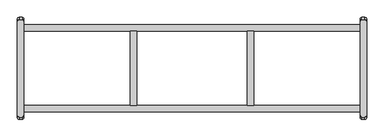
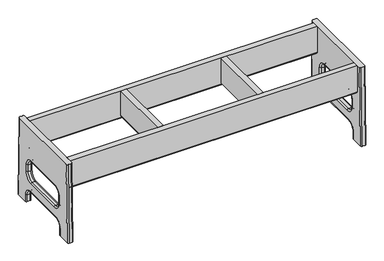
"""IFC4 building model written with IfcOpenShell, lengths in millimetres: furniture geometry, SSL-Childcraft_Outdoor-Bench : 2161361."""

from ifc_helpers import new_model, si_unit, point, frame, frame_2d, origin, place, context, project, spatial, polyline, circle_curve, ellipse_curve, trimmed, segment, composite_curve, outline, extrude, source, transform, mapped, element, save
from ifc_brep_helpers import plane_surface, cylinder_surface, revolved_surface, extruded_surface, advanced_brep


def furniture_0e07e83f(model_context):
    return source(origin(), model_context, "Body", "SolidModel", [
        advanced_brep(
        [(12.7652904, -293.6836882, 285.75), (17.5277904, -298.4461882, 285.75), (27.0527904, -298.4461882, 285.75), (31.8152904, -293.6836882, 285.75), (31.8152904, -11.1163118, 285.75), (27.0527904, -6.3538118, 285.75), (17.5277904, -6.3538118, 285.75), (12.7652904, -11.1163118, 285.75), (12.7652904, -300.0375, 0.0), (12.7652904, -4.7625, 0.0), (12.7652904, -46.8179199, 0.0), (12.7652904, -46.8179199, 25.4), (12.7652904, -76.1866699, 54.76875), (12.7652904, -228.6006417, 54.76875), (12.7652904, -257.9820917, 25.3873), (12.7652904, -257.9820917, 0.0), (12.7652904, -222.25, 169.0686466), (12.7652904, -251.61875, 139.6998966), (12.7652904, -251.61875, 114.2998966), (12.7652904, -222.25, 84.9311466), (12.7652904, -82.55, 84.9311466), (12.7652904, -53.18125, 114.2998966), (12.7652904, -53.18125, 139.6998966), (12.7652904, -82.55, 169.0686466), (17.5277904, -304.8, 0.0), (27.0527904, -304.8, 0.0), (31.8152904, -300.0375, 0.0), (27.0527904, -246.85625, 139.6998966), (27.0527904, -222.25, 164.3061466), (31.8152904, -222.25, 169.0686466), (31.8152904, -251.61875, 139.6998966), (17.5277904, -246.85625, 139.6998966), (17.5277904, -222.25, 164.3061466), (31.8152904, -251.61875, 114.2998966), (27.0527904, -246.85625, 114.2998966), (17.5277904, -246.85625, 114.2998966), (31.8152904, -222.25, 84.9311466), (27.0527904, -222.25, 89.6936466), (17.5277904, -222.25, 89.6936466), (31.8152904, -82.55, 84.9311466), (27.0527904, -82.55, 89.6936466), (17.5277904, -82.55, 89.6936466), (31.8152904, -53.18125, 114.2998966), (27.0527904, -57.94375, 114.2998966), (17.5277904, -57.94375, 114.2998966), (31.8152904, -53.18125, 139.6998966), (27.0527904, -57.94375, 139.6998966), (17.5277904, -57.94375, 139.6998966), (31.8152904, -82.55, 169.0686466), (27.0527904, -82.55, 164.3061466), (17.5277904, -82.55, 164.3061466), (27.0527904, -51.5804199, 0.0), (31.8152904, -46.8179199, 0.0), (31.8152904, -46.8179199, 25.4), (27.0527904, -51.5804199, 25.4), (17.5277904, -51.5804199, 0.0), (17.5277904, -51.5804199, 25.4), (31.8152904, -76.1866699, 54.76875), (27.0527904, -76.1866699, 50.00625), (17.5277904, -76.1866699, 50.00625), (31.8152904, -228.6006417, 54.76875), (27.0527904, -228.6006417, 50.00625), (17.5277904, -228.6006417, 50.00625), (31.8152904, -257.9820917, 25.3873), (27.0527904, -253.2195917, 25.3873), (17.5277904, -253.2195917, 25.3873), (31.8152904, -257.9820917, 0.0), (27.0527904, -253.2195917, 0.0), (17.5277904, -253.2195917, 0.0), (17.5277904, 0.0, 0.0), (27.0527904, 0.0, 0.0), (31.8152904, -4.7625, 0.0)],
        [
            (0, 1, circle_curve(frame((17.5277904, -293.6836882, 285.75), z_axis=(0.0, 0.0, 1.0), x_axis=(1.0, 0.0, 0.0)), 4.7625)),
            (1, 2),
            (2, 3, circle_curve(frame((27.0527904, -293.6836882, 285.75), z_axis=(0.0, 0.0, 1.0), x_axis=(1.0, 0.0, 0.0)), 4.7625)),
            (3, 4),
            (4, 5, circle_curve(frame((27.0527904, -11.1163118, 285.75), z_axis=(0.0, 0.0, 1.0), x_axis=(1.0, 0.0, 0.0)), 4.7625)),
            (5, 6),
            (6, 7, circle_curve(frame((17.5277904, -11.1163118, 285.75), z_axis=(0.0, 0.0, 1.0), x_axis=(1.0, 0.0, 0.0)), 4.7625)),
            (7, 0),
            (8, 0),
            (7, 9),
            (9, 10),
            (10, 11),
            (11, 12, circle_curve(frame((12.7652904, -76.1866699, 25.4), z_axis=(1.0, 0.0, 0.0), x_axis=(0.0, 1.0, 0.0)), 29.36875)),
            (12, 13),
            (13, 14, circle_curve(frame((12.7652904, -228.6006417, 25.3873), z_axis=(1.0, 0.0, 0.0), x_axis=(0.0, 0.0, 1.0)), 29.38145)),
            (14, 15),
            (15, 8),
            (16, 17, circle_curve(frame((12.7652904, -222.25, 139.6998966), z_axis=(1.0, 0.0, 0.0), x_axis=(0.0, 0.0, 1.0)), 29.36875)),
            (17, 18),
            (18, 19, circle_curve(frame((12.7652904, -222.25, 114.2998966), z_axis=(1.0, 0.0, 0.0), x_axis=(0.0, -1.0, 0.0)), 29.36875)),
            (19, 20),
            (20, 21, circle_curve(frame((12.7652904, -82.55, 114.2998966), z_axis=(1.0, 0.0, 0.0), x_axis=(0.0, 0.0, -1.0)), 29.36875)),
            (21, 22),
            (22, 23, circle_curve(frame((12.7652904, -82.55, 139.6998966), z_axis=(1.0, 0.0, 0.0), x_axis=(0.0, 1.0, 0.0)), 29.36875)),
            (23, 16),
            (8, 24, circle_curve(frame((17.5277904, -300.0375, 0.0), z_axis=(0.0, 0.0, 1.0), x_axis=(1.0, 0.0, 0.0)), 4.7625)),
            (24, 1),
            (24, 25),
            (25, 2),
            (25, 26, circle_curve(frame((27.0527904, -300.0375, 0.0), z_axis=(0.0, 0.0, 1.0), x_axis=(1.0, 0.0, 0.0)), 4.7625)),
            (26, 3),
            (27, 28, circle_curve(frame((27.0527904, -222.25, 139.6998966), z_axis=(-1.0, 0.0, 0.0), x_axis=(0.0, 0.0, 1.0)), 24.60625)),
            (28, 29, circle_curve(frame((27.0527904, -222.25, 169.0686466), z_axis=(0.0, -1.0, 0.0), x_axis=(0.0, 0.0, -1.0)), 4.7625)),
            (29, 30, circle_curve(frame((31.8152904, -222.25, 139.6998966), z_axis=(1.0, 0.0, 0.0), x_axis=(0.0, 0.0, 1.0)), 29.36875)),
            (30, 27, circle_curve(frame((27.0527904, -251.61875, 139.6998966), z_axis=(0.0, 0.0, 1.0), x_axis=(0.0, 1.0, 0.0)), 4.7625)),
            (27, 31),
            (31, 32, circle_curve(frame((17.5277904, -222.25, 139.6998966), z_axis=(-1.0, 0.0, 0.0), x_axis=(0.0, 0.0, 1.0)), 24.60625)),
            (32, 28),
            (31, 17, circle_curve(frame((17.5277904, -251.61875, 139.6998966), z_axis=(0.0, 0.0, 1.0), x_axis=(0.0, 1.0, 0.0)), 4.7625)),
            (16, 32, circle_curve(frame((17.5277904, -222.25, 169.0686466), z_axis=(0.0, -1.0, 0.0), x_axis=(0.0, 0.0, -1.0)), 4.7625)),
            (30, 33),
            (33, 34, circle_curve(frame((27.0527904, -251.61875, 114.2998966), z_axis=(0.0, 0.0, 1.0), x_axis=(0.0, 1.0, 0.0)), 4.7625)),
            (34, 27),
            (34, 35),
            (35, 31),
            (35, 18, circle_curve(frame((17.5277904, -251.61875, 114.2998966), z_axis=(0.0, 0.0, 1.0), x_axis=(0.0, 1.0, 0.0)), 4.7625)),
            (33, 36, circle_curve(frame((31.8152904, -222.25, 114.2998966), z_axis=(1.0, 0.0, 0.0), x_axis=(0.0, -1.0, 0.0)), 29.36875)),
            (36, 37, circle_curve(frame((27.0527904, -222.25, 84.9311466), z_axis=(0.0, -1.0, 0.0), x_axis=(0.0, 0.0, 1.0)), 4.7625)),
            (37, 34, circle_curve(frame((27.0527904, -222.25, 114.2998966), z_axis=(-1.0, 0.0, 0.0), x_axis=(0.0, -1.0, 0.0)), 24.60625)),
            (37, 38),
            (38, 35, circle_curve(frame((17.5277904, -222.25, 114.2998966), z_axis=(-1.0, 0.0, 0.0), x_axis=(0.0, -1.0, 0.0)), 24.60625)),
            (38, 19, circle_curve(frame((17.5277904, -222.25, 84.9311466), z_axis=(0.0, -1.0, 0.0), x_axis=(0.0, 0.0, 1.0)), 4.7625)),
            (36, 39),
            (39, 40, circle_curve(frame((27.0527904, -82.55, 84.9311466), z_axis=(0.0, -1.0, 0.0), x_axis=(0.0, 0.0, 1.0)), 4.7625)),
            (40, 37),
            (40, 41),
            (41, 38),
            (41, 20, circle_curve(frame((17.5277904, -82.55, 84.9311466), z_axis=(0.0, -1.0, 0.0), x_axis=(0.0, 0.0, 1.0)), 4.7625)),
            (39, 42, circle_curve(frame((31.8152904, -82.55, 114.2998966), z_axis=(1.0, 0.0, 0.0), x_axis=(0.0, 0.0, -1.0)), 29.36875)),
            (42, 43, circle_curve(frame((27.0527904, -53.18125, 114.2998966), z_axis=(0.0, 0.0, -1.0), x_axis=(0.0, -1.0, 0.0)), 4.7625)),
            (43, 40, circle_curve(frame((27.0527904, -82.55, 114.2998966), z_axis=(-1.0, 0.0, 0.0), x_axis=(0.0, 0.0, -1.0)), 24.60625)),
            (43, 44),
            (44, 41, circle_curve(frame((17.5277904, -82.55, 114.2998966), z_axis=(-1.0, 0.0, 0.0), x_axis=(0.0, 0.0, -1.0)), 24.60625)),
            (44, 21, circle_curve(frame((17.5277904, -53.18125, 114.2998966), z_axis=(0.0, 0.0, -1.0), x_axis=(0.0, -1.0, 0.0)), 4.7625)),
            (42, 45),
            (45, 46, circle_curve(frame((27.0527904, -53.18125, 139.6998966), z_axis=(0.0, 0.0, -1.0), x_axis=(0.0, -1.0, 0.0)), 4.7625)),
            (46, 43),
            (46, 47),
            (47, 44),
            (47, 22, circle_curve(frame((17.5277904, -53.18125, 139.6998966), z_axis=(0.0, 0.0, -1.0), x_axis=(0.0, -1.0, 0.0)), 4.7625)),
            (45, 48, circle_curve(frame((31.8152904, -82.55, 139.6998966), z_axis=(1.0, 0.0, 0.0), x_axis=(0.0, 1.0, 0.0)), 29.36875)),
            (48, 49, circle_curve(frame((27.0527904, -82.55, 169.0686466), z_axis=(0.0, 1.0, 0.0), x_axis=(0.0, 0.0, -1.0)), 4.7625)),
            (49, 46, circle_curve(frame((27.0527904, -82.55, 139.6998966), z_axis=(-1.0, 0.0, 0.0), x_axis=(0.0, 1.0, 0.0)), 24.60625)),
            (49, 50),
            (50, 47, circle_curve(frame((17.5277904, -82.55, 139.6998966), z_axis=(-1.0, 0.0, 0.0), x_axis=(0.0, 1.0, 0.0)), 24.60625)),
            (50, 23, circle_curve(frame((17.5277904, -82.55, 169.0686466), z_axis=(0.0, 1.0, 0.0), x_axis=(0.0, 0.0, -1.0)), 4.7625)),
            (28, 49),
            (48, 29),
            (32, 50),
            (51, 52, circle_curve(frame((27.0527904, -46.8179199, 0.0), z_axis=(0.0, 0.0, 1.0), x_axis=(0.0, -1.0, 0.0)), 4.7625)),
            (52, 53),
            (53, 54, circle_curve(frame((27.0527904, -46.8179199, 25.4), z_axis=(0.0, 0.0, -1.0), x_axis=(0.0, -1.0, 0.0)), 4.7625)),
            (54, 51),
            (55, 51),
            (54, 56),
            (56, 55),
            (10, 55, circle_curve(frame((17.5277904, -46.8179199, 0.0), z_axis=(0.0, 0.0, 1.0), x_axis=(0.0, -1.0, 0.0)), 4.7625)),
            (56, 11, circle_curve(frame((17.5277904, -46.8179199, 25.4), z_axis=(0.0, 0.0, -1.0), x_axis=(0.0, -1.0, 0.0)), 4.7625)),
            (53, 57, circle_curve(frame((31.8152904, -76.1866699, 25.4), z_axis=(1.0, 0.0, 0.0), x_axis=(0.0, 1.0, 0.0)), 29.36875)),
            (57, 58, circle_curve(frame((27.0527904, -76.1866699, 54.76875), z_axis=(0.0, 1.0, 0.0), x_axis=(0.0, 0.0, -1.0)), 4.7625)),
            (58, 54, circle_curve(frame((27.0527904, -76.1866699, 25.4), z_axis=(-1.0, 0.0, 0.0), x_axis=(0.0, 1.0, 0.0)), 24.60625)),
            (58, 59),
            (59, 56, circle_curve(frame((17.5277904, -76.1866699, 25.4), z_axis=(-1.0, 0.0, 0.0), x_axis=(0.0, 1.0, 0.0)), 24.60625)),
            (59, 12, circle_curve(frame((17.5277904, -76.1866699, 54.76875), z_axis=(0.0, 1.0, 0.0), x_axis=(0.0, 0.0, -1.0)), 4.7625)),
            (57, 60),
            (60, 61, circle_curve(frame((27.0527904, -228.6006417, 54.76875), z_axis=(0.0, 1.0, 0.0), x_axis=(0.0, 0.0, -1.0)), 4.7625)),
            (61, 58),
            (61, 62),
            (62, 59),
            (62, 13, circle_curve(frame((17.5277904, -228.6006417, 54.76875), z_axis=(0.0, 1.0, 0.0), x_axis=(0.0, 0.0, -1.0)), 4.7625)),
            (60, 63, circle_curve(frame((31.8152904, -228.6006417, 25.3873), z_axis=(1.0, 0.0, 0.0), x_axis=(0.0, 0.0, 1.0)), 29.38145)),
            (63, 64, circle_curve(frame((27.0527904, -257.9820917, 25.3873), z_axis=(0.0, 0.0, 1.0), x_axis=(0.0, 1.0, 0.0)), 4.7625)),
            (64, 61, circle_curve(frame((27.0527904, -228.6006417, 25.3873), z_axis=(-1.0, 0.0, 0.0), x_axis=(0.0, 0.0, 1.0)), 24.61895)),
            (64, 65),
            (65, 62, circle_curve(frame((17.5277904, -228.6006417, 25.3873), z_axis=(-1.0, 0.0, 0.0), x_axis=(0.0, 0.0, 1.0)), 24.61895)),
            (65, 14, circle_curve(frame((17.5277904, -257.9820917, 25.3873), z_axis=(0.0, 0.0, 1.0), x_axis=(0.0, 1.0, 0.0)), 4.7625)),
            (63, 66),
            (66, 67, circle_curve(frame((27.0527904, -257.9820917, 0.0), z_axis=(0.0, 0.0, 1.0), x_axis=(0.0, 1.0, 0.0)), 4.7625)),
            (67, 64),
            (67, 68),
            (68, 65),
            (68, 15, circle_curve(frame((17.5277904, -257.9820917, 0.0), z_axis=(0.0, 0.0, 1.0), x_axis=(0.0, 1.0, 0.0)), 4.7625)),
            (66, 26),
            (9, 69, circle_curve(frame((17.5277904, -4.7625, 0.0), z_axis=(0.0, 0.0, -1.0), x_axis=(1.0, 0.0, 0.0)), 4.7625)),
            (69, 70),
            (70, 71, circle_curve(frame((27.0527904, -4.7625, 0.0), z_axis=(0.0, 0.0, -1.0), x_axis=(1.0, 0.0, 0.0)), 4.7625)),
            (71, 52),
            (71, 4),
            (6, 69),
            (5, 70),
        ],
        [
            plane_surface(frame((22.2902904, -295.0066049, 285.75), z_axis=(0.0, 0.0, 1.0), x_axis=(0.0, -1.0, 0.0))),
            plane_surface(frame((12.7652904, -299.640625, 0.0), z_axis=(-1.0, 0.0, 0.0), x_axis=(0.0, -1.0, 0.0))),
            extruded_surface(trimmed(circle_curve(frame((17.5277904, -300.0375, 0.0), z_axis=(0.0, 0.0, 1.0), x_axis=(1.0, 0.0, 0.0)), 4.7625), [point((12.7652904, -300.0375, 0.0))], [point((17.5277904, -304.8, 0.0))], True, "CARTESIAN"), (0.0, 6.353811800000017, 285.75), 285.8206315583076),
            plane_surface(frame((22.2902904, -304.8, 0.0), z_axis=(0.0, -0.9997528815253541, 0.02223006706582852), x_axis=(1.0, 0.0, 0.0))),
            extruded_surface(trimmed(circle_curve(frame((27.0527904, -300.0375, 0.0), z_axis=(0.0, 0.0, 1.0), x_axis=(1.0, 0.0, 0.0)), 4.7625), [point((27.0527904, -304.8, 0.0))], [point((31.8152904, -300.0375, 0.0))], True, "CARTESIAN"), (0.0, 6.353811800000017, 285.75), 285.8206315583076),
            revolved_surface(trimmed(ellipse_curve(frame((27.0527904, -222.25, 169.0686466), z_axis=(0.0, 1.0, 0.0), x_axis=(0.0, 0.0, -1.0)), 4.7625, 4.7625), [point((31.8152904, -222.25, 169.0686466))], [point((27.0527904, -222.25, 164.3061466))], True, "CARTESIAN"), (0.0, -222.25, 139.6998966), (1.0, 0.0, 0.0)),
            revolved_surface(polyline([(27.0527904, -222.25, 164.30614659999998), (17.5277904, -222.25, 164.30614659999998)]), (0.0, -222.25, 139.6998966), (1.0, 0.0, 0.0)),
            revolved_surface(trimmed(ellipse_curve(frame((17.5277904, -222.25, 169.0686466), z_axis=(0.0, 1.0, 0.0), x_axis=(0.0, 0.0, -1.0)), 4.7625, 4.7625), [point((17.5277904, -222.25, 164.3061466))], [point((12.7652904, -222.25, 169.0686466))], True, "CARTESIAN"), (0.0, -222.25, 139.6998966), (1.0, 0.0, 0.0)),
            cylinder_surface(frame((27.0527904, -251.61875, 139.6998966), z_axis=(0.0, 0.0, 1.0), x_axis=(0.0, 1.0, 0.0)), 4.7625),
            plane_surface(frame((27.0527904, -246.85625, 139.6998966), z_axis=(0.0, 1.0, 0.0), x_axis=(0.0, 0.0, -1.0))),
            cylinder_surface(frame((17.5277904, -251.61875, 139.6998966), z_axis=(0.0, 0.0, 1.0), x_axis=(0.0, 1.0, 0.0)), 4.7625),
            revolved_surface(trimmed(ellipse_curve(frame((27.0527904, -251.61875, 114.2998966), z_axis=(0.0, 0.0, 1.0), x_axis=(0.0, 1.0, 0.0)), 4.7625, 4.7625), [point((31.8152904, -251.61875, 114.2998966))], [point((27.0527904, -246.85625, 114.2998966))], True, "CARTESIAN"), (0.0, -222.25, 114.2998966), (1.0, 0.0, 0.0)),
            revolved_surface(polyline([(27.0527904, -246.85625, 114.2998966), (17.5277904, -246.85625, 114.2998966)]), (0.0, -222.25, 114.2998966), (1.0, 0.0, 0.0)),
            revolved_surface(trimmed(ellipse_curve(frame((17.5277904, -251.61875, 114.2998966), z_axis=(0.0, 0.0, 1.0), x_axis=(0.0, 1.0, 0.0)), 4.7625, 4.7625), [point((17.5277904, -246.85625, 114.2998966))], [point((12.7652904, -251.61875, 114.2998966))], True, "CARTESIAN"), (0.0, -222.25, 114.2998966), (1.0, 0.0, 0.0)),
            cylinder_surface(frame((27.0527904, -222.25, 84.9311466), z_axis=(0.0, -1.0, 0.0), x_axis=(0.0, 0.0, 1.0)), 4.7625),
            plane_surface(frame((27.0527904, -222.25, 89.6936466), z_axis=(0.0, 0.0, 1.0), x_axis=(0.0, 1.0, 0.0))),
            cylinder_surface(frame((17.5277904, -222.25, 84.9311466), z_axis=(0.0, -1.0, 0.0), x_axis=(0.0, 0.0, 1.0)), 4.7625),
            revolved_surface(trimmed(ellipse_curve(frame((27.0527904, -82.55, 84.9311466), z_axis=(0.0, -1.0, 0.0), x_axis=(0.0, 0.0, 1.0)), 4.7625, 4.7625), [point((31.8152904, -82.55, 84.9311466))], [point((27.0527904, -82.55, 89.6936466))], True, "CARTESIAN"), (0.0, -82.55, 114.2998966), (1.0, 0.0, 0.0)),
            revolved_surface(polyline([(27.0527904, -82.55, 89.6936466), (17.5277904, -82.55, 89.6936466)]), (0.0, -82.55, 114.2998966), (1.0, 0.0, 0.0)),
            revolved_surface(trimmed(ellipse_curve(frame((17.5277904, -82.55, 84.9311466), z_axis=(0.0, -1.0, 0.0), x_axis=(0.0, 0.0, 1.0)), 4.7625, 4.7625), [point((17.5277904, -82.55, 89.6936466))], [point((12.7652904, -82.55, 84.9311466))], True, "CARTESIAN"), (0.0, -82.55, 114.2998966), (1.0, 0.0, 0.0)),
            cylinder_surface(frame((27.0527904, -53.18125, 114.2998966), z_axis=(0.0, 0.0, -1.0), x_axis=(0.0, -1.0, 0.0)), 4.7625),
            plane_surface(frame((27.0527904, -57.94375, 114.2998966), z_axis=(0.0, -1.0, 0.0), x_axis=(0.0, 0.0, 1.0))),
            cylinder_surface(frame((17.5277904, -53.18125, 114.2998966), z_axis=(0.0, 0.0, -1.0), x_axis=(0.0, -1.0, 0.0)), 4.7625),
            revolved_surface(trimmed(ellipse_curve(frame((27.0527904, -53.18125, 139.6998966), z_axis=(0.0, 0.0, -1.0), x_axis=(0.0, -1.0, 0.0)), 4.7625, 4.7625), [point((31.8152904, -53.18125, 139.6998966))], [point((27.0527904, -57.94375, 139.6998966))], True, "CARTESIAN"), (0.0, -82.55, 139.6998966), (1.0, 0.0, 0.0)),
            revolved_surface(polyline([(27.0527904, -57.943749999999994, 139.6998966), (17.5277904, -57.943749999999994, 139.6998966)]), (0.0, -82.55, 139.6998966), (1.0, 0.0, 0.0)),
            revolved_surface(trimmed(ellipse_curve(frame((17.5277904, -53.18125, 139.6998966), z_axis=(0.0, 0.0, -1.0), x_axis=(0.0, -1.0, 0.0)), 4.7625, 4.7625), [point((17.5277904, -57.94375, 139.6998966))], [point((12.7652904, -53.18125, 139.6998966))], True, "CARTESIAN"), (0.0, -82.55, 139.6998966), (1.0, 0.0, 0.0)),
            cylinder_surface(frame((27.0527904, -82.55, 169.0686466), z_axis=(0.0, 1.0, 0.0), x_axis=(0.0, 0.0, -1.0)), 4.7625),
            plane_surface(frame((27.0527904, -82.55, 164.3061466), z_axis=(0.0, 0.0, -1.0), x_axis=(0.0, -1.0, 0.0))),
            cylinder_surface(frame((17.5277904, -82.55, 169.0686466), z_axis=(0.0, 1.0, 0.0), x_axis=(0.0, 0.0, -1.0)), 4.7625),
            cylinder_surface(frame((27.0527904, -46.8179199, 0.0), z_axis=(0.0, 0.0, -1.0), x_axis=(0.0, -1.0, 0.0)), 4.7625),
            plane_surface(frame((27.0527904, -51.5804199, 0.0), z_axis=(0.0, -1.0, 0.0), x_axis=(0.0, 0.0, 1.0))),
            cylinder_surface(frame((17.5277904, -46.8179199, 0.0), z_axis=(0.0, 0.0, -1.0), x_axis=(0.0, -1.0, 0.0)), 4.7625),
            revolved_surface(trimmed(ellipse_curve(frame((27.0527904, -46.8179199, 25.4), z_axis=(0.0, 0.0, -1.0), x_axis=(0.0, -1.0, 0.0)), 4.7625, 4.7625), [point((31.8152904, -46.8179199, 25.4))], [point((27.0527904, -51.5804199, 25.4))], True, "CARTESIAN"), (0.0, -76.1866699, 25.4), (1.0, 0.0, 0.0)),
            revolved_surface(polyline([(27.0527904, -51.580419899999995, 25.4), (17.5277904, -51.580419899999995, 25.4)]), (0.0, -76.1866699, 25.4), (1.0, 0.0, 0.0)),
            revolved_surface(trimmed(ellipse_curve(frame((17.5277904, -46.8179199, 25.4), z_axis=(0.0, 0.0, -1.0), x_axis=(0.0, -1.0, 0.0)), 4.7625, 4.7625), [point((17.5277904, -51.5804199, 25.4))], [point((12.7652904, -46.8179199, 25.4))], True, "CARTESIAN"), (0.0, -76.1866699, 25.4), (1.0, 0.0, 0.0)),
            cylinder_surface(frame((27.0527904, -76.1866699, 54.76875), z_axis=(0.0, 1.0, 0.0), x_axis=(0.0, 0.0, -1.0)), 4.7625),
            plane_surface(frame((27.0527904, -76.1866699, 50.00625), z_axis=(0.0, 0.0, -1.0), x_axis=(0.0, -1.0, 0.0))),
            cylinder_surface(frame((17.5277904, -76.1866699, 54.76875), z_axis=(0.0, 1.0, 0.0), x_axis=(0.0, 0.0, -1.0)), 4.7625),
            revolved_surface(trimmed(ellipse_curve(frame((27.0527904, -228.6006417, 54.76875), z_axis=(0.0, 1.0, 0.0), x_axis=(0.0, 0.0, -1.0)), 4.7625, 4.7625), [point((31.8152904, -228.6006417, 54.76875))], [point((27.0527904, -228.6006417, 50.00625))], True, "CARTESIAN"), (0.0, -228.6006417, 25.3873), (1.0, 0.0, 0.0)),
            revolved_surface(polyline([(27.0527904, -228.6006417, 50.00625), (17.5277904, -228.6006417, 50.00625)]), (0.0, -228.6006417, 25.3873), (1.0, 0.0, 0.0)),
            revolved_surface(trimmed(ellipse_curve(frame((17.5277904, -228.6006417, 54.76875), z_axis=(0.0, 1.0, 0.0), x_axis=(0.0, 0.0, -1.0)), 4.7625, 4.7625), [point((17.5277904, -228.6006417, 50.00625))], [point((12.7652904, -228.6006417, 54.76875))], True, "CARTESIAN"), (0.0, -228.6006417, 25.3873), (1.0, 0.0, 0.0)),
            cylinder_surface(frame((27.0527904, -257.9820917, 25.3873), z_axis=(0.0, 0.0, 1.0), x_axis=(0.0, 1.0, 0.0)), 4.7625),
            plane_surface(frame((27.0527904, -253.2195917, 25.3873), z_axis=(0.0, 1.0, 0.0), x_axis=(0.0, 0.0, -1.0))),
            cylinder_surface(frame((17.5277904, -257.9820917, 25.3873), z_axis=(0.0, 0.0, 1.0), x_axis=(0.0, 1.0, 0.0)), 4.7625),
            plane_surface(frame((1044.5097096, -301.3604167, 0.0), z_axis=(0.0, 0.0, -1.0), x_axis=(-1.0, 0.0, 0.0))),
            plane_surface(frame((1054.0347096, -46.0241699, 0.0), z_axis=(0.0, 0.0, -1.0), x_axis=(-1.0, 0.0, 0.0))),
            plane_surface(frame((31.8152904, -299.640625, 0.0), z_axis=(1.0, 0.0, 0.0), x_axis=(0.0, 1.0, 0.0))),
            extruded_surface(trimmed(circle_curve(frame((17.5277904, -4.7625, 0.0), z_axis=(0.0, 0.0, 1.0), x_axis=(1.0, 0.0, 0.0)), 4.7625), [point((17.5277904, 0.0, 0.0))], [point((12.7652904, -4.7625, 0.0))], True, "CARTESIAN"), (0.0, -6.3538118, 285.75), 285.8206315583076),
            plane_surface(frame((22.2902904, 0.0, 0.0), z_axis=(0.0, 0.9997528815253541, 0.022230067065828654), x_axis=(-1.0, 0.0, 0.0))),
            extruded_surface(trimmed(circle_curve(frame((27.0527904, -4.7625, 0.0), z_axis=(0.0, 0.0, 1.0), x_axis=(1.0, 0.0, 0.0)), 4.7625), [point((31.8152904, -4.7625, 0.0))], [point((27.0527904, 0.0, 0.0))], True, "CARTESIAN"), (0.0, -6.3538118, 285.75), 285.8206315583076),
        ],
        [
            (0, [[1, 2, 3, 4, 5, 6, 7, 8]]),
            (1, [[9, -8, 10, 11, 12, 13, 14, 15, 16, 17], [18, 19, 20, 21, 22, 23, 24, 25]]),
            (2, [[-1, -9, 26, 27]]),
            (3, [[-2, -27, 28, 29]]),
            (4, [[-3, -29, 30, 31]]),
            (5, [[32, 33, 34, 35]]),
            (6, [[-32, 36, 37, 38]]),
            (7, [[-37, 39, -18, 40]]),
            (8, [[-35, 41, 42, 43]]),
            (9, [[-36, -43, 44, 45]]),
            (10, [[-39, -45, 46, -19]]),
            (11, [[-42, 47, 48, 49]]),
            (12, [[-44, -49, 50, 51]]),
            (13, [[-46, -51, 52, -20]]),
            (14, [[-48, 53, 54, 55]]),
            (15, [[-50, -55, 56, 57]]),
            (16, [[-52, -57, 58, -21]]),
            (17, [[-54, 59, 60, 61]]),
            (18, [[-56, -61, 62, 63]]),
            (19, [[-58, -63, 64, -22]]),
            (20, [[-60, 65, 66, 67]]),
            (21, [[-62, -67, 68, 69]]),
            (22, [[-64, -69, 70, -23]]),
            (23, [[-66, 71, 72, 73]]),
            (24, [[-68, -73, 74, 75]]),
            (25, [[-70, -75, 76, -24]]),
            (26, [[-33, 77, -72, 78]]),
            (27, [[-38, 79, -74, -77]]),
            (28, [[-40, -25, -76, -79]]),
            (29, [[80, 81, 82, 83]]),
            (30, [[84, -83, 85, 86]]),
            (31, [[87, -86, 88, -12]]),
            (32, [[89, 90, 91, -82]]),
            (33, [[-85, -91, 92, 93]]),
            (34, [[-88, -93, 94, -13]]),
            (35, [[95, 96, 97, -90]]),
            (36, [[-92, -97, 98, 99]]),
            (37, [[-14, -94, -99, 100]]),
            (38, [[101, 102, 103, -96]]),
            (39, [[-98, -103, 104, 105]]),
            (40, [[-15, -100, -105, 106]]),
            (41, [[107, 108, 109, -102]]),
            (42, [[-104, -109, 110, 111]]),
            (43, [[-16, -106, -111, 112]]),
            (44, [[-30, -28, -26, -17, -112, -110, -108, 113]]),
            (45, [[-80, -84, -87, -11, 114, 115, 116, 117]]),
            (46, [[-31, -113, -107, -101, -95, -89, -81, -117, 118, -4], [-34, -78, -71, -65, -59, -53, -47, -41]]),
            (47, [[-7, 119, -114, -10]]),
            (48, [[-6, 120, -115, -119]]),
            (49, [[-5, -118, -116, -120]]),
        ],
    ),
        advanced_brep(
        [(1039.7472096, -246.85625, 139.6998966), (1039.7472096, -222.25, 164.3061466), (1049.2722096, -222.25, 164.3061466), (1049.2722096, -246.85625, 139.6998966), (1034.9847096, -251.61875, 139.6998966), (1034.9847096, -222.25, 169.0686466), (1054.0347096, -222.25, 169.0686466), (1054.0347096, -251.61875, 139.6998966), (1049.2722096, -246.85625, 114.2998966), (1039.7472096, -246.85625, 114.2998966), (1034.9847096, -251.61875, 114.2998966), (1054.0347096, -251.61875, 114.2998966), (1049.2722096, -222.25, 89.6936466), (1039.7472096, -222.25, 89.6936466), (1034.9847096, -222.25, 84.9311466), (1054.0347096, -222.25, 84.9311466), (1049.2722096, -82.55, 89.6936466), (1039.7472096, -82.55, 89.6936466), (1034.9847096, -82.55, 84.9311466), (1054.0347096, -82.55, 84.9311466), (1049.2722096, -57.94375, 114.2998966), (1039.7472096, -57.94375, 114.2998966), (1034.9847096, -53.18125, 114.2998966), (1054.0347096, -53.18125, 114.2998966), (1049.2722096, -57.94375, 139.6998966), (1039.7472096, -57.94375, 139.6998966), (1034.9847096, -53.18125, 139.6998966), (1054.0347096, -53.18125, 139.6998966), (1049.2722096, -82.55, 164.3061466), (1039.7472096, -82.55, 164.3061466), (1034.9847096, -82.55, 169.0686466), (1054.0347096, -82.55, 169.0686466), (1049.2722096, -51.5804199, 0.0), (1054.0347096, -46.8179199, 0.0), (1054.0347096, -46.8179199, 25.4), (1049.2722096, -51.5804199, 25.4), (1039.7472096, -51.5804199, 0.0), (1039.7472096, -51.5804199, 25.4), (1034.9847096, -46.8179199, 0.0), (1034.9847096, -46.8179199, 25.4), (1054.0347096, -76.1866699, 54.76875), (1049.2722096, -76.1866699, 50.00625), (1039.7472096, -76.1866699, 50.00625), (1034.9847096, -76.1866699, 54.76875), (1054.0347096, -228.6006417, 54.76875), (1049.2722096, -228.6006417, 50.00625), (1039.7472096, -228.6006417, 50.00625), (1034.9847096, -228.6006417, 54.76875), (1054.0347096, -257.9820917, 25.3873), (1049.2722096, -253.2195917, 25.3873), (1039.7472096, -253.2195917, 25.3873), (1034.9847096, -257.9820917, 25.3873), (1054.0347096, -257.9820917, 0.0), (1049.2722096, -253.2195917, 0.0), (1039.7472096, -253.2195917, 0.0), (1034.9847096, -257.9820917, 0.0), (1034.9847096, -293.6836882, 285.75), (1039.7472096, -298.4461882, 285.75), (1049.2722096, -298.4461882, 285.75), (1054.0347096, -293.6836882, 285.75), (1054.0347096, -11.1163118, 285.75), (1049.2722096, -6.3538118, 285.75), (1039.7472096, -6.3538118, 285.75), (1034.9847096, -11.1163118, 285.75), (1054.0347096, -300.0375, 0.0), (1049.2722096, -304.8, 0.0), (1039.7472096, -304.8, 0.0), (1034.9847096, -300.0375, 0.0), (1054.0347096, -4.7625, 0.0), (1034.9847096, -4.7625, 0.0), (1039.7472096, 0.0, 0.0), (1049.2722096, 0.0, 0.0)],
        [
            (0, 1, circle_curve(frame((1039.7472096, -222.25, 139.6998966), z_axis=(-1.0, 0.0, 0.0), x_axis=(0.0, 0.0, 1.0)), 24.60625)),
            (1, 2),
            (2, 3, circle_curve(frame((1049.2722096, -222.25, 139.6998966), z_axis=(1.0, 0.0, 0.0), x_axis=(0.0, 0.0, 1.0)), 24.60625)),
            (3, 0),
            (0, 4, circle_curve(frame((1039.7472096, -251.61875, 139.6998966), z_axis=(0.0, 0.0, 1.0), x_axis=(0.0, 1.0, 0.0)), 4.7625)),
            (4, 5, circle_curve(frame((1034.9847096, -222.25, 139.6998966), z_axis=(-1.0, 0.0, 0.0), x_axis=(0.0, 0.0, 1.0)), 29.36875)),
            (5, 1, circle_curve(frame((1039.7472096, -222.25, 169.0686466), z_axis=(0.0, -1.0, 0.0), x_axis=(0.0, 0.0, -1.0)), 4.7625)),
            (2, 6, circle_curve(frame((1049.2722096, -222.25, 169.0686466), z_axis=(0.0, -1.0, 0.0), x_axis=(0.0, 0.0, -1.0)), 4.7625)),
            (6, 7, circle_curve(frame((1054.0347096, -222.25, 139.6998966), z_axis=(1.0, 0.0, 0.0), x_axis=(0.0, 0.0, 1.0)), 29.36875)),
            (7, 3, circle_curve(frame((1049.2722096, -251.61875, 139.6998966), z_axis=(0.0, 0.0, 1.0), x_axis=(0.0, 1.0, 0.0)), 4.7625)),
            (3, 8),
            (8, 9),
            (9, 0),
            (9, 10, circle_curve(frame((1039.7472096, -251.61875, 114.2998966), z_axis=(0.0, 0.0, 1.0), x_axis=(0.0, 1.0, 0.0)), 4.7625)),
            (10, 4),
            (7, 11),
            (11, 8, circle_curve(frame((1049.2722096, -251.61875, 114.2998966), z_axis=(0.0, 0.0, 1.0), x_axis=(0.0, 1.0, 0.0)), 4.7625)),
            (8, 12, circle_curve(frame((1049.2722096, -222.25, 114.2998966), z_axis=(1.0, 0.0, 0.0), x_axis=(0.0, -1.0, 0.0)), 24.60625)),
            (12, 13),
            (13, 9, circle_curve(frame((1039.7472096, -222.25, 114.2998966), z_axis=(-1.0, 0.0, 0.0), x_axis=(0.0, -1.0, 0.0)), 24.60625)),
            (13, 14, circle_curve(frame((1039.7472096, -222.25, 84.9311466), z_axis=(0.0, -1.0, 0.0), x_axis=(0.0, 0.0, 1.0)), 4.7625)),
            (14, 10, circle_curve(frame((1034.9847096, -222.25, 114.2998966), z_axis=(-1.0, 0.0, 0.0), x_axis=(0.0, -1.0, 0.0)), 29.36875)),
            (11, 15, circle_curve(frame((1054.0347096, -222.25, 114.2998966), z_axis=(1.0, 0.0, 0.0), x_axis=(0.0, -1.0, 0.0)), 29.36875)),
            (15, 12, circle_curve(frame((1049.2722096, -222.25, 84.9311466), z_axis=(0.0, -1.0, 0.0), x_axis=(0.0, 0.0, 1.0)), 4.7625)),
            (12, 16),
            (16, 17),
            (17, 13),
            (17, 18, circle_curve(frame((1039.7472096, -82.55, 84.9311466), z_axis=(0.0, -1.0, 0.0), x_axis=(0.0, 0.0, 1.0)), 4.7625)),
            (18, 14),
            (15, 19),
            (19, 16, circle_curve(frame((1049.2722096, -82.55, 84.9311466), z_axis=(0.0, -1.0, 0.0), x_axis=(0.0, 0.0, 1.0)), 4.7625)),
            (16, 20, circle_curve(frame((1049.2722096, -82.55, 114.2998966), z_axis=(1.0, 0.0, 0.0), x_axis=(0.0, 0.0, -1.0)), 24.60625)),
            (20, 21),
            (21, 17, circle_curve(frame((1039.7472096, -82.55, 114.2998966), z_axis=(-1.0, 0.0, 0.0), x_axis=(0.0, 0.0, -1.0)), 24.60625)),
            (21, 22, circle_curve(frame((1039.7472096, -53.18125, 114.2998966), z_axis=(0.0, 0.0, -1.0), x_axis=(0.0, -1.0, 0.0)), 4.7625)),
            (22, 18, circle_curve(frame((1034.9847096, -82.55, 114.2998966), z_axis=(-1.0, 0.0, 0.0), x_axis=(0.0, 0.0, -1.0)), 29.36875)),
            (19, 23, circle_curve(frame((1054.0347096, -82.55, 114.2998966), z_axis=(1.0, 0.0, 0.0), x_axis=(0.0, 0.0, -1.0)), 29.36875)),
            (23, 20, circle_curve(frame((1049.2722096, -53.18125, 114.2998966), z_axis=(0.0, 0.0, -1.0), x_axis=(0.0, -1.0, 0.0)), 4.7625)),
            (20, 24),
            (24, 25),
            (25, 21),
            (25, 26, circle_curve(frame((1039.7472096, -53.18125, 139.6998966), z_axis=(0.0, 0.0, -1.0), x_axis=(0.0, -1.0, 0.0)), 4.7625)),
            (26, 22),
            (23, 27),
            (27, 24, circle_curve(frame((1049.2722096, -53.18125, 139.6998966), z_axis=(0.0, 0.0, -1.0), x_axis=(0.0, -1.0, 0.0)), 4.7625)),
            (24, 28, circle_curve(frame((1049.2722096, -82.55, 139.6998966), z_axis=(1.0, 0.0, 0.0), x_axis=(0.0, 1.0, 0.0)), 24.60625)),
            (28, 29),
            (29, 25, circle_curve(frame((1039.7472096, -82.55, 139.6998966), z_axis=(-1.0, 0.0, 0.0), x_axis=(0.0, 1.0, 0.0)), 24.60625)),
            (29, 30, circle_curve(frame((1039.7472096, -82.55, 169.0686466), z_axis=(0.0, 1.0, 0.0), x_axis=(0.0, 0.0, -1.0)), 4.7625)),
            (30, 26, circle_curve(frame((1034.9847096, -82.55, 139.6998966), z_axis=(-1.0, 0.0, 0.0), x_axis=(0.0, 1.0, 0.0)), 29.36875)),
            (27, 31, circle_curve(frame((1054.0347096, -82.55, 139.6998966), z_axis=(1.0, 0.0, 0.0), x_axis=(0.0, 1.0, 0.0)), 29.36875)),
            (31, 28, circle_curve(frame((1049.2722096, -82.55, 169.0686466), z_axis=(0.0, 1.0, 0.0), x_axis=(0.0, 0.0, -1.0)), 4.7625)),
            (1, 29),
            (28, 2),
            (5, 30),
            (31, 6),
            (32, 33, circle_curve(frame((1049.2722096, -46.8179199, 0.0), z_axis=(0.0, 0.0, 1.0), x_axis=(0.0, -1.0, 0.0)), 4.7625)),
            (33, 34),
            (34, 35, circle_curve(frame((1049.2722096, -46.8179199, 25.4), z_axis=(0.0, 0.0, -1.0), x_axis=(0.0, -1.0, 0.0)), 4.7625)),
            (35, 32),
            (36, 32),
            (35, 37),
            (37, 36),
            (38, 36, circle_curve(frame((1039.7472096, -46.8179199, 0.0), z_axis=(0.0, 0.0, 1.0), x_axis=(0.0, -1.0, 0.0)), 4.7625)),
            (37, 39, circle_curve(frame((1039.7472096, -46.8179199, 25.4), z_axis=(0.0, 0.0, -1.0), x_axis=(0.0, -1.0, 0.0)), 4.7625)),
            (39, 38),
            (34, 40, circle_curve(frame((1054.0347096, -76.1866699, 25.4), z_axis=(1.0, 0.0, 0.0), x_axis=(0.0, 1.0, 0.0)), 29.36875)),
            (40, 41, circle_curve(frame((1049.2722096, -76.1866699, 54.76875), z_axis=(0.0, 1.0, 0.0), x_axis=(0.0, 0.0, -1.0)), 4.7625)),
            (41, 35, circle_curve(frame((1049.2722096, -76.1866699, 25.4), z_axis=(-1.0, 0.0, 0.0), x_axis=(0.0, 1.0, 0.0)), 24.60625)),
            (41, 42),
            (42, 37, circle_curve(frame((1039.7472096, -76.1866699, 25.4), z_axis=(-1.0, 0.0, 0.0), x_axis=(0.0, 1.0, 0.0)), 24.60625)),
            (42, 43, circle_curve(frame((1039.7472096, -76.1866699, 54.76875), z_axis=(0.0, 1.0, 0.0), x_axis=(0.0, 0.0, -1.0)), 4.7625)),
            (43, 39, circle_curve(frame((1034.9847096, -76.1866699, 25.4), z_axis=(-1.0, 0.0, 0.0), x_axis=(0.0, 1.0, 0.0)), 29.36875)),
            (40, 44),
            (44, 45, circle_curve(frame((1049.2722096, -228.6006417, 54.76875), z_axis=(0.0, 1.0, 0.0), x_axis=(0.0, 0.0, -1.0)), 4.7625)),
            (45, 41),
            (45, 46),
            (46, 42),
            (47, 43),
            (46, 47, circle_curve(frame((1039.7472096, -228.6006417, 54.76875), z_axis=(0.0, 1.0, 0.0), x_axis=(0.0, 0.0, -1.0)), 4.7625)),
            (44, 48, circle_curve(frame((1054.0347096, -228.6006417, 25.3873), z_axis=(1.0, 0.0, 0.0), x_axis=(0.0, 0.0, 1.0)), 29.38145)),
            (48, 49, circle_curve(frame((1049.2722096, -257.9820917, 25.3873), z_axis=(0.0, 0.0, 1.0), x_axis=(0.0, 1.0, 0.0)), 4.7625)),
            (49, 45, circle_curve(frame((1049.2722096, -228.6006417, 25.3873), z_axis=(-1.0, 0.0, 0.0), x_axis=(0.0, 0.0, 1.0)), 24.61895)),
            (49, 50),
            (50, 46, circle_curve(frame((1039.7472096, -228.6006417, 25.3873), z_axis=(-1.0, 0.0, 0.0), x_axis=(0.0, 0.0, 1.0)), 24.61895)),
            (51, 47, circle_curve(frame((1034.9847096, -228.6006417, 25.3873), z_axis=(-1.0, 0.0, 0.0), x_axis=(0.0, 0.0, 1.0)), 29.38145)),
            (50, 51, circle_curve(frame((1039.7472096, -257.9820917, 25.3873), z_axis=(0.0, 0.0, 1.0), x_axis=(0.0, 1.0, 0.0)), 4.7625)),
            (48, 52),
            (52, 53, circle_curve(frame((1049.2722096, -257.9820917, 0.0), z_axis=(0.0, 0.0, 1.0), x_axis=(0.0, 1.0, 0.0)), 4.7625)),
            (53, 49),
            (53, 54),
            (54, 50),
            (55, 51),
            (54, 55, circle_curve(frame((1039.7472096, -257.9820917, 0.0), z_axis=(0.0, 0.0, 1.0), x_axis=(0.0, 1.0, 0.0)), 4.7625)),
            (56, 57, circle_curve(frame((1039.7472096, -293.6836882, 285.75), z_axis=(0.0, 0.0, 1.0), x_axis=(-1.0, 0.0, 0.0)), 4.7625)),
            (57, 58),
            (58, 59, circle_curve(frame((1049.2722096, -293.6836882, 285.75), z_axis=(0.0, 0.0, 1.0), x_axis=(-1.0, 0.0, 0.0)), 4.7625)),
            (59, 60),
            (60, 61, circle_curve(frame((1049.2722096, -11.1163118, 285.75), z_axis=(0.0, 0.0, 1.0), x_axis=(-1.0, 0.0, 0.0)), 4.7625)),
            (61, 62),
            (62, 63, circle_curve(frame((1039.7472096, -11.1163118, 285.75), z_axis=(0.0, 0.0, 1.0), x_axis=(-1.0, 0.0, 0.0)), 4.7625)),
            (63, 56),
            (64, 65, circle_curve(frame((1049.2722096, -300.0375, 0.0), z_axis=(0.0, 0.0, -1.0), x_axis=(-1.0, 0.0, 0.0)), 4.7625)),
            (65, 66),
            (66, 67, circle_curve(frame((1039.7472096, -300.0375, 0.0), z_axis=(0.0, 0.0, -1.0), x_axis=(-1.0, 0.0, 0.0)), 4.7625)),
            (67, 55),
            (52, 64),
            (59, 64),
            (33, 68),
            (68, 60),
            (57, 66),
            (65, 58),
            (67, 56),
            (63, 69),
            (69, 38),
            (69, 70, circle_curve(frame((1039.7472096, -4.7625, 0.0), z_axis=(0.0, 0.0, -1.0), x_axis=(-1.0, 0.0, 0.0)), 4.7625)),
            (70, 71),
            (71, 68, circle_curve(frame((1049.2722096, -4.7625, 0.0), z_axis=(0.0, 0.0, -1.0), x_axis=(-1.0, 0.0, 0.0)), 4.7625)),
            (71, 61),
            (70, 62),
        ],
        [
            revolved_surface(polyline([(1049.2722096, -222.25, 164.30614659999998), (1039.7472096, -222.25, 164.30614659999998)]), (0.0, -222.25, 139.6998966), (1.0, 0.0, 0.0)),
            revolved_surface(trimmed(ellipse_curve(frame((1039.7472096, -222.25, 169.0686466), z_axis=(0.0, 1.0, 0.0), x_axis=(0.0, 0.0, -1.0)), 4.7625, 4.7625), [point((1039.7472096, -222.25, 164.3061466))], [point((1034.9847096, -222.25, 169.0686466))], True, "CARTESIAN"), (0.0, -222.25, 139.6998966), (1.0, 0.0, 0.0)),
            revolved_surface(trimmed(ellipse_curve(frame((1049.2722096, -222.25, 169.0686466), z_axis=(0.0, 1.0, 0.0), x_axis=(0.0, 0.0, -1.0)), 4.7625, 4.7625), [point((1054.0347096, -222.25, 169.0686466))], [point((1049.2722096, -222.25, 164.3061466))], True, "CARTESIAN"), (0.0, -222.25, 139.6998966), (1.0, 0.0, 0.0)),
            plane_surface(frame((1049.2722096, -246.85625, 139.6998966), z_axis=(0.0, 1.0, 0.0), x_axis=(0.0, 0.0, -1.0))),
            cylinder_surface(frame((1039.7472096, -251.61875, 139.6998966), z_axis=(0.0, 0.0, 1.0), x_axis=(0.0, 1.0, 0.0)), 4.7625),
            cylinder_surface(frame((1049.2722096, -251.61875, 139.6998966), z_axis=(0.0, 0.0, 1.0), x_axis=(0.0, 1.0, 0.0)), 4.7625),
            revolved_surface(polyline([(1049.2722096, -246.85625, 114.2998966), (1039.7472096, -246.85625, 114.2998966)]), (0.0, -222.25, 114.2998966), (1.0, 0.0, 0.0)),
            revolved_surface(trimmed(ellipse_curve(frame((1039.7472096, -251.61875, 114.2998966), z_axis=(0.0, 0.0, 1.0), x_axis=(0.0, 1.0, 0.0)), 4.7625, 4.7625), [point((1039.7472096, -246.85625, 114.2998966))], [point((1034.9847096, -251.61875, 114.2998966))], True, "CARTESIAN"), (0.0, -222.25, 114.2998966), (1.0, 0.0, 0.0)),
            revolved_surface(trimmed(ellipse_curve(frame((1049.2722096, -251.61875, 114.2998966), z_axis=(0.0, 0.0, 1.0), x_axis=(0.0, 1.0, 0.0)), 4.7625, 4.7625), [point((1054.0347096, -251.61875, 114.2998966))], [point((1049.2722096, -246.85625, 114.2998966))], True, "CARTESIAN"), (0.0, -222.25, 114.2998966), (1.0, 0.0, 0.0)),
            plane_surface(frame((1049.2722096, -222.25, 89.6936466), z_axis=(0.0, 0.0, 1.0), x_axis=(0.0, 1.0, 0.0))),
            cylinder_surface(frame((1039.7472096, -222.25, 84.9311466), z_axis=(0.0, -1.0, 0.0), x_axis=(0.0, 0.0, 1.0)), 4.7625),
            cylinder_surface(frame((1049.2722096, -222.25, 84.9311466), z_axis=(0.0, -1.0, 0.0), x_axis=(0.0, 0.0, 1.0)), 4.7625),
            revolved_surface(polyline([(1049.2722096, -82.55, 89.6936466), (1039.7472096, -82.55, 89.6936466)]), (0.0, -82.55, 114.2998966), (1.0, 0.0, 0.0)),
            revolved_surface(trimmed(ellipse_curve(frame((1039.7472096, -82.55, 84.9311466), z_axis=(0.0, -1.0, 0.0), x_axis=(0.0, 0.0, 1.0)), 4.7625, 4.7625), [point((1039.7472096, -82.55, 89.6936466))], [point((1034.9847096, -82.55, 84.9311466))], True, "CARTESIAN"), (0.0, -82.55, 114.2998966), (1.0, 0.0, 0.0)),
            revolved_surface(trimmed(ellipse_curve(frame((1049.2722096, -82.55, 84.9311466), z_axis=(0.0, -1.0, 0.0), x_axis=(0.0, 0.0, 1.0)), 4.7625, 4.7625), [point((1054.0347096, -82.55, 84.9311466))], [point((1049.2722096, -82.55, 89.6936466))], True, "CARTESIAN"), (0.0, -82.55, 114.2998966), (1.0, 0.0, 0.0)),
            plane_surface(frame((1049.2722096, -57.94375, 114.2998966), z_axis=(0.0, -1.0, 0.0), x_axis=(0.0, 0.0, 1.0))),
            cylinder_surface(frame((1039.7472096, -53.18125, 114.2998966), z_axis=(0.0, 0.0, -1.0), x_axis=(0.0, -1.0, 0.0)), 4.7625),
            cylinder_surface(frame((1049.2722096, -53.18125, 114.2998966), z_axis=(0.0, 0.0, -1.0), x_axis=(0.0, -1.0, 0.0)), 4.7625),
            revolved_surface(polyline([(1049.2722096, -57.943749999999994, 139.6998966), (1039.7472096, -57.943749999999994, 139.6998966)]), (0.0, -82.55, 139.6998966), (1.0, 0.0, 0.0)),
            revolved_surface(trimmed(ellipse_curve(frame((1039.7472096, -53.18125, 139.6998966), z_axis=(0.0, 0.0, -1.0), x_axis=(0.0, -1.0, 0.0)), 4.7625, 4.7625), [point((1039.7472096, -57.94375, 139.6998966))], [point((1034.9847096, -53.18125, 139.6998966))], True, "CARTESIAN"), (0.0, -82.55, 139.6998966), (1.0, 0.0, 0.0)),
            revolved_surface(trimmed(ellipse_curve(frame((1049.2722096, -53.18125, 139.6998966), z_axis=(0.0, 0.0, -1.0), x_axis=(0.0, -1.0, 0.0)), 4.7625, 4.7625), [point((1054.0347096, -53.18125, 139.6998966))], [point((1049.2722096, -57.94375, 139.6998966))], True, "CARTESIAN"), (0.0, -82.55, 139.6998966), (1.0, 0.0, 0.0)),
            plane_surface(frame((1049.2722096, -82.55, 164.3061466), z_axis=(0.0, 0.0, -1.0), x_axis=(0.0, -1.0, 0.0))),
            cylinder_surface(frame((1039.7472096, -82.55, 169.0686466), z_axis=(0.0, 1.0, 0.0), x_axis=(0.0, 0.0, -1.0)), 4.7625),
            cylinder_surface(frame((1049.2722096, -82.55, 169.0686466), z_axis=(0.0, 1.0, 0.0), x_axis=(0.0, 0.0, -1.0)), 4.7625),
            cylinder_surface(frame((1049.2722096, -46.8179199, 0.0), z_axis=(0.0, 0.0, -1.0), x_axis=(0.0, -1.0, 0.0)), 4.7625),
            plane_surface(frame((1049.2722096, -51.5804199, 0.0), z_axis=(0.0, -1.0, 0.0), x_axis=(0.0, 0.0, 1.0))),
            cylinder_surface(frame((1039.7472096, -46.8179199, 0.0), z_axis=(0.0, 0.0, -1.0), x_axis=(0.0, -1.0, 0.0)), 4.7625),
            revolved_surface(trimmed(ellipse_curve(frame((1049.2722096, -46.8179199, 25.4), z_axis=(0.0, 0.0, -1.0), x_axis=(0.0, -1.0, 0.0)), 4.7625, 4.7625), [point((1054.0347096, -46.8179199, 25.4))], [point((1049.2722096, -51.5804199, 25.4))], True, "CARTESIAN"), (0.0, -76.1866699, 25.4), (1.0, 0.0, 0.0)),
            revolved_surface(polyline([(1049.2722096, -51.580419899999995, 25.4), (1039.7472096, -51.580419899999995, 25.4)]), (0.0, -76.1866699, 25.4), (1.0, 0.0, 0.0)),
            revolved_surface(trimmed(ellipse_curve(frame((1039.7472096, -46.8179199, 25.4), z_axis=(0.0, 0.0, -1.0), x_axis=(0.0, -1.0, 0.0)), 4.7625, 4.7625), [point((1039.7472096, -51.5804199, 25.4))], [point((1034.9847096, -46.8179199, 25.4))], True, "CARTESIAN"), (0.0, -76.1866699, 25.4), (1.0, 0.0, 0.0)),
            cylinder_surface(frame((1049.2722096, -76.1866699, 54.76875), z_axis=(0.0, 1.0, 0.0), x_axis=(0.0, 0.0, -1.0)), 4.7625),
            plane_surface(frame((1049.2722096, -76.1866699, 50.00625), z_axis=(0.0, 0.0, -1.0), x_axis=(0.0, -1.0, 0.0))),
            cylinder_surface(frame((1039.7472096, -76.1866699, 54.76875), z_axis=(0.0, 1.0, 0.0), x_axis=(0.0, 0.0, -1.0)), 4.7625),
            revolved_surface(trimmed(ellipse_curve(frame((1049.2722096, -228.6006417, 54.76875), z_axis=(0.0, 1.0, 0.0), x_axis=(0.0, 0.0, -1.0)), 4.7625, 4.7625), [point((1054.0347096, -228.6006417, 54.76875))], [point((1049.2722096, -228.6006417, 50.00625))], True, "CARTESIAN"), (0.0, -228.6006417, 25.3873), (1.0, 0.0, 0.0)),
            revolved_surface(polyline([(1049.2722096, -228.6006417, 50.00625), (1039.7472096, -228.6006417, 50.00625)]), (0.0, -228.6006417, 25.3873), (1.0, 0.0, 0.0)),
            revolved_surface(trimmed(ellipse_curve(frame((1039.7472096, -228.6006417, 54.76875), z_axis=(0.0, 1.0, 0.0), x_axis=(0.0, 0.0, -1.0)), 4.7625, 4.7625), [point((1039.7472096, -228.6006417, 50.00625))], [point((1034.9847096, -228.6006417, 54.76875))], True, "CARTESIAN"), (0.0, -228.6006417, 25.3873), (1.0, 0.0, 0.0)),
            cylinder_surface(frame((1049.2722096, -257.9820917, 25.3873), z_axis=(0.0, 0.0, 1.0), x_axis=(0.0, 1.0, 0.0)), 4.7625),
            plane_surface(frame((1049.2722096, -253.2195917, 25.3873), z_axis=(0.0, 1.0, 0.0), x_axis=(0.0, 0.0, -1.0))),
            cylinder_surface(frame((1039.7472096, -257.9820917, 25.3873), z_axis=(0.0, 0.0, 1.0), x_axis=(0.0, 1.0, 0.0)), 4.7625),
            plane_surface(frame((1044.5097096, -295.0066049, 285.75), z_axis=(0.0, 0.0, 1.0), x_axis=(-1.0, 0.0, 0.0))),
            plane_surface(frame((1044.5097096, -301.3604167, 0.0), z_axis=(0.0, 0.0, -1.0), x_axis=(-1.0, 0.0, 0.0))),
            plane_surface(frame((1054.0347096, -299.640625, 0.0), z_axis=(1.0, 0.0, 0.0), x_axis=(0.0, 1.0, 0.0))),
            plane_surface(frame((1044.5097096, -304.8, 0.0), z_axis=(0.0, -0.9997528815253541, 0.022230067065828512), x_axis=(1.0, 0.0, 0.0))),
            plane_surface(frame((1034.9847096, -299.640625, 0.0), z_axis=(-1.0, 0.0, 0.0), x_axis=(0.0, -1.0, 0.0))),
            plane_surface(frame((1054.0347096, -46.0241699, 0.0), z_axis=(0.0, 0.0, -1.0), x_axis=(-1.0, 0.0, 0.0))),
            extruded_surface(trimmed(circle_curve(frame((1049.2722096, -4.7625, 0.0), z_axis=(0.0, 0.0, 1.0), x_axis=(-1.0, 0.0, 0.0)), 4.7625), [point((1054.0347096, -4.7625, 0.0))], [point((1049.2722096, 0.0, 0.0))], True, "CARTESIAN"), (0.0, -6.3538118, 285.75), 285.8206315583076),
            plane_surface(frame((1044.5097096, 0.0, 0.0), z_axis=(0.0, 0.9997528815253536, 0.022230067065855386), x_axis=(-1.0, 0.0, 0.0))),
            extruded_surface(trimmed(circle_curve(frame((1039.7472096, -4.7625, 0.0), z_axis=(0.0, 0.0, 1.0), x_axis=(-1.0, 0.0, 0.0)), 4.7625), [point((1039.7472096, 0.0, 0.0))], [point((1034.9847096, -4.7625, 0.0))], True, "CARTESIAN"), (0.0, -6.3538118, 285.75), 285.8206315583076),
            extruded_surface(trimmed(circle_curve(frame((1049.2722096, -300.0375, 0.0), z_axis=(0.0, 0.0, 1.0), x_axis=(-1.0, 0.0, 0.0)), 4.7625), [point((1049.2722096, -304.8, 0.0))], [point((1054.0347096, -300.0375, 0.0))], True, "CARTESIAN"), (0.0, 6.353811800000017, 285.75), 285.8206315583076),
            extruded_surface(trimmed(circle_curve(frame((1039.7472096, -300.0375, 0.0), z_axis=(0.0, 0.0, 1.0), x_axis=(-1.0, 0.0, 0.0)), 4.7625), [point((1034.9847096, -300.0375, 0.0))], [point((1039.7472096, -304.8, 0.0))], True, "CARTESIAN"), (0.0, 6.353811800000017, 285.75), 285.8206315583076),
        ],
        [
            (0, [[1, 2, 3, 4]]),
            (1, [[-1, 5, 6, 7]]),
            (2, [[-3, 8, 9, 10]]),
            (3, [[-4, 11, 12, 13]]),
            (4, [[-5, -13, 14, 15]]),
            (5, [[-10, 16, 17, -11]]),
            (6, [[-12, 18, 19, 20]]),
            (7, [[-14, -20, 21, 22]]),
            (8, [[-17, 23, 24, -18]]),
            (9, [[-19, 25, 26, 27]]),
            (10, [[-21, -27, 28, 29]]),
            (11, [[-24, 30, 31, -25]]),
            (12, [[-26, 32, 33, 34]]),
            (13, [[-28, -34, 35, 36]]),
            (14, [[-31, 37, 38, -32]]),
            (15, [[-33, 39, 40, 41]]),
            (16, [[-35, -41, 42, 43]]),
            (17, [[-38, 44, 45, -39]]),
            (18, [[-40, 46, 47, 48]]),
            (19, [[-42, -48, 49, 50]]),
            (20, [[-45, 51, 52, -46]]),
            (21, [[-2, 53, -47, 54]]),
            (22, [[-7, 55, -49, -53]]),
            (23, [[-8, -54, -52, 56]]),
            (24, [[57, 58, 59, 60]]),
            (25, [[61, -60, 62, 63]]),
            (26, [[64, -63, 65, 66]]),
            (27, [[67, 68, 69, -59]]),
            (28, [[-62, -69, 70, 71]]),
            (29, [[-65, -71, 72, 73]]),
            (30, [[74, 75, 76, -68]]),
            (31, [[-70, -76, 77, 78]]),
            (32, [[79, -72, -78, 80]]),
            (33, [[81, 82, 83, -75]]),
            (34, [[-77, -83, 84, 85]]),
            (35, [[86, -80, -85, 87]]),
            (36, [[88, 89, 90, -82]]),
            (37, [[-84, -90, 91, 92]]),
            (38, [[93, -87, -92, 94]]),
            (39, [[95, 96, 97, 98, 99, 100, 101, 102]]),
            (40, [[103, 104, 105, 106, -94, -91, -89, 107]]),
            (41, [[-98, 108, -107, -88, -81, -74, -67, -58, 109, 110], [-9, -56, -51, -44, -37, -30, -23, -16]]),
            (42, [[-96, 111, -104, 112]]),
            (43, [[113, -102, 114, 115, -66, -73, -79, -86, -93, -106], [-6, -15, -22, -29, -36, -43, -50, -55]]),
            (44, [[-109, -57, -61, -64, -115, 116, 117, 118]]),
            (45, [[-99, -110, -118, 119]]),
            (46, [[-100, -119, -117, 120]]),
            (47, [[-101, -120, -116, -114]]),
            (48, [[-97, -112, -103, -108]]),
            (49, [[-95, -113, -105, -111]]),
        ],
    ),
        extrude(outline(composite_curve([segment(polyline([(285.75, 368.3), (285.75, 349.25), (195.2625788, 349.25)]), True, "CONTINUOUS"), segment(trimmed(circle_curve(frame_2d((195.2625788, 354.0125)), 4.7625), [point((195.2625788, 349.25))], [point((190.5000788, 354.0125))], False, "CARTESIAN"), True, "CONTINUOUS"), segment(polyline([(190.5000788, 354.0125), (190.5000788, 363.5375)]), True, "CONTINUOUS"), segment(trimmed(circle_curve(frame_2d((195.2625788, 363.5375)), 4.7625), [point((190.5000788, 363.5375))], [point((195.2625788, 368.3))], False, "CARTESIAN"), True, "CONTINUOUS"), segment(polyline([(195.2625788, 368.3), (285.75, 368.3)]), True, "CONTINUOUS")], self_intersect=False)), frame((0.0, -263.5211882, 0.0), z_axis=(0.0, 1.0, 0.0), x_axis=(0.0, 0.0, 1.0)), (0.0, 0.0, 1.0), 222.2233397),
        extrude(outline(composite_curve([segment(polyline([(285.75, 717.55), (285.75, 698.5), (195.2625788, 698.5)]), True, "CONTINUOUS"), segment(trimmed(circle_curve(frame_2d((195.2625788, 703.2625)), 4.7625), [point((195.2625788, 698.5))], [point((190.5000788, 703.2625))], False, "CARTESIAN"), True, "CONTINUOUS"), segment(polyline([(190.5000788, 703.2625), (190.5000788, 712.7875)]), True, "CONTINUOUS"), segment(trimmed(circle_curve(frame_2d((195.2625788, 712.7875)), 4.7625), [point((190.5000788, 712.7875))], [point((195.2625788, 717.55))], False, "CARTESIAN"), True, "CONTINUOUS"), segment(polyline([(195.2625788, 717.55), (285.75, 717.55)]), True, "CONTINUOUS")], self_intersect=False)), frame((0.0, -263.5211882, 0.0), z_axis=(0.0, 1.0, 0.0), x_axis=(0.0, 0.0, 1.0)), (0.0, 0.0, 1.0), 222.2233397),
        extrude(outline(composite_curve([segment(polyline([(-41.2978485, 285.75), (-22.2478485, 285.75), (-22.2478485, 188.9125788)]), True, "CONTINUOUS"), segment(trimmed(circle_curve(frame_2d((-27.0103485, 188.9125788)), 4.7625), [point((-22.2478485, 188.9125788))], [point((-27.0103485, 184.1500788))], False, "CARTESIAN"), True, "CONTINUOUS"), segment(polyline([(-27.0103485, 184.1500788), (-36.5353485, 184.1500788)]), True, "CONTINUOUS"), segment(trimmed(circle_curve(frame_2d((-36.5353485, 188.9125788)), 4.7625), [point((-36.5353485, 184.1500788))], [point((-41.2978485, 188.9125788))], False, "CARTESIAN"), True, "CONTINUOUS"), segment(polyline([(-41.2978485, 188.9125788), (-41.2978485, 285.75)]), True, "CONTINUOUS")], self_intersect=False)), frame((31.8152904, 0.0, 0.0), z_axis=(1.0, 0.0, 0.0), x_axis=(0.0, 1.0, 0.0)), (0.0, 0.0, 1.0), 1003.1694191),
        extrude(outline(composite_curve([segment(polyline([(-282.5711882, 285.75), (-263.5211882, 285.75), (-263.5211882, 188.9125788)]), True, "CONTINUOUS"), segment(trimmed(circle_curve(frame_2d((-268.2836882, 188.9125788)), 4.7625), [point((-263.5211882, 188.9125788))], [point((-268.2836882, 184.1500788))], False, "CARTESIAN"), True, "CONTINUOUS"), segment(polyline([(-268.2836882, 184.1500788), (-277.8086882, 184.1500788)]), True, "CONTINUOUS"), segment(trimmed(circle_curve(frame_2d((-277.8086882, 188.9125788)), 4.7625), [point((-277.8086882, 184.1500788))], [point((-282.5711882, 188.9125788))], False, "CARTESIAN"), True, "CONTINUOUS"), segment(polyline([(-282.5711882, 188.9125788), (-282.5711882, 285.75)]), True, "CONTINUOUS")], self_intersect=False)), frame((31.8152904, 0.0, 0.0), z_axis=(1.0, 0.0, 0.0), x_axis=(0.0, 1.0, 0.0)), (0.0, 0.0, 1.0), 1003.1694191),
    ])


if __name__ == "__main__":
    model = new_model("IFC4")
    model_context = context("Model", 3, world=origin())
    ifc_project = project(units=[si_unit("LENGTHUNIT", "METRE", prefix="MILLI")], contexts=[model_context])
    site = spatial("IfcSite", under=ifc_project)
    building = spatial("IfcBuilding", under=site)
    placement = place(None, origin())
    furniture_shape = furniture_0e07e83f(model_context)
    element("IfcFurniture", 1, ObjectType="SSL-Childcraft_Outdoor-Bench : 2161361", at=placement, inside=building, context=model_context, shape_type="MappedRepresentation", body=[
        mapped(furniture_shape, transform((0.0, 0.0, 0.0), x_axis=(1.0, 0.0, 0.0), y_axis=(0.0, 1.0, 0.0), z_axis=(0.0, 0.0, 1.0))),
    ])
    save(model, "model.ifc")
